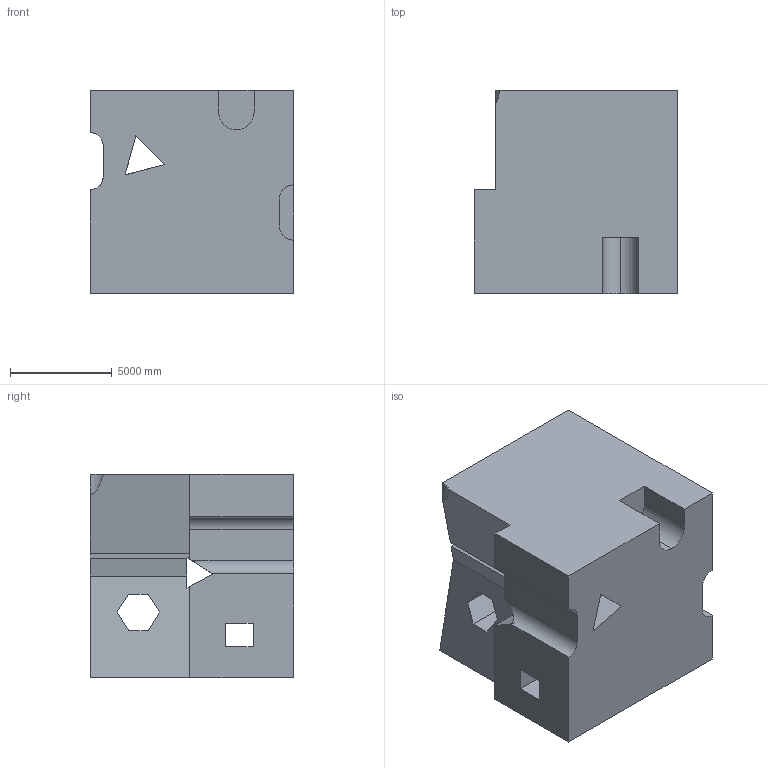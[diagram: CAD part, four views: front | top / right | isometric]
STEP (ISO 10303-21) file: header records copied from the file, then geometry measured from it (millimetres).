
FILE_DESCRIPTION (( 'STEP AP203' ), '1' );
FILE_NAME ('1812.STEP', '2022-08-26T14:43:52', ( 'user' ), ( '' ), 'SwSTEP 2.0', 'SolidWorks 2021', '' );
FILE_SCHEMA (( 'CONFIG_CONTROL_DESIGN' ));
Length unit declared in the file: centimetre
Products named in the file (1): 1812
Bounding box: 10000 x 10000 x 10000 mm (x, y, z)
Volume: 834348015150.8 mm3; surface area: 784781396.4 mm2
Topology: 1 solids, 1 shells, 44 faces, 138 edges, 92 vertices
Faces by surface type: plane 36, cylinder 8
Entity records: 1610 total; most frequent: CARTESIAN_POINT 287, ORIENTED_EDGE 276, DIRECTION 239, EDGE_CURVE 138, VECTOR 119, LINE 119, VERTEX_POINT 92, AXIS2_PLACEMENT_3D 60
